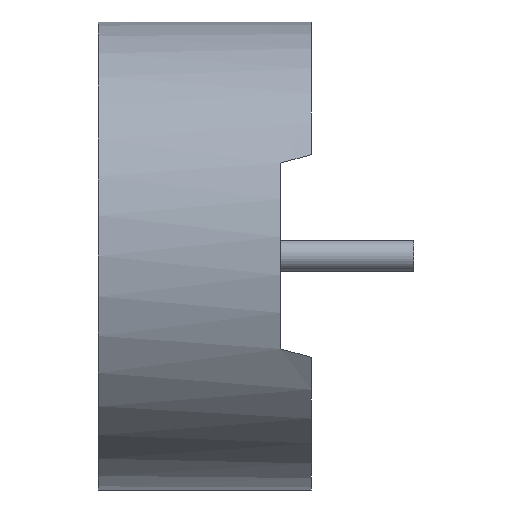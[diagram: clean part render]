
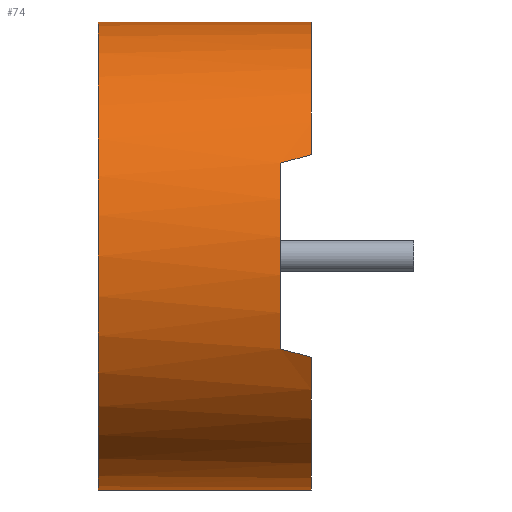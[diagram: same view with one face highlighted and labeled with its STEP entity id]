
A CAD part, left-side view. The second image highlights one B-rep face of the part: STEP entity #74.
In plain terms, the highlighted cylindrical face has radius 9.588 mm (diameter 19.177 mm), a partial arc.
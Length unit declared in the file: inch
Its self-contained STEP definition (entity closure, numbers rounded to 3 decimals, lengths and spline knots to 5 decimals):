
#9 = CARTESIAN_POINT ( 'NONE',  ( 0., 0.344, 0.3775 ) ) ;
#16 = EDGE_CURVE ( 'NONE', #597, #945, #1271, .T. ) ;
#45 = CARTESIAN_POINT ( 'NONE',  ( 0., 0.344, 0.3775 ) ) ;
#50 = CARTESIAN_POINT ( 'NONE',  ( 0., 0., -0.3775 ) ) ;
#56 = CARTESIAN_POINT ( 'NONE',  ( 0., 0.344, -0.3775 ) ) ;
#58 = CARTESIAN_POINT ( 'NONE',  ( 0., 0., 0.3775 ) ) ;
#63 = EDGE_CURVE ( 'NONE', #597, #335, #927, .T. ) ;
#74 = ADVANCED_FACE ( 'NONE', ( #84 ), #925, .T. ) ;
#75 = VECTOR ( 'NONE', #479, 39.37008 ) ;
#84 = FACE_OUTER_BOUND ( 'NONE', #321, .T. ) ;
#111 = AXIS2_PLACEMENT_3D ( 'NONE', #1046, #709, #708 ) ;
#114 = EDGE_CURVE ( 'NONE', #335, #806, #560, .T. ) ;
#144 = ORIENTED_EDGE ( 'NONE', *, *, #399, .T. ) ;
#201 = EDGE_CURVE ( 'NONE', #642, #644, #875, .T. ) ;
#231 = CARTESIAN_POINT ( 'NONE',  ( -0.34642, 0.05, 0.15 ) ) ;
#302 = ORIENTED_EDGE ( 'NONE', *, *, #303, .T. ) ;
#303 = EDGE_CURVE ( 'NONE', #945, #642, #1119, .T. ) ;
#321 = EDGE_LOOP ( 'NONE', ( #630, #638, #570, #302, #805, #769, #1095, #144 ) ) ;
#327 = AXIS2_PLACEMENT_3D ( 'NONE', #1153, #1147, #679 ) ;
#335 = VERTEX_POINT ( 'NONE', #9 ) ;
#353 = CARTESIAN_POINT ( 'NONE',  ( -0.34642, 0.05, -0.15 ) ) ;
#357 = CARTESIAN_POINT ( 'NONE',  ( -0.3403, 0., -0.1634 ) ) ;
#364 = CARTESIAN_POINT ( 'NONE',  ( -0.34642, 0.05, -0.15 ) ) ;
#394 = CARTESIAN_POINT ( 'NONE',  ( -0.34243, 0.01652, -0.15897 ) ) ;
#395 = CARTESIAN_POINT ( 'NONE',  ( -0.34447, 0.03319, -0.15451 ) ) ;
#399 = EDGE_CURVE ( 'NONE', #825, #806, #1099, .T. ) ;
#413 = VECTOR ( 'NONE', #1282, 39.37008 ) ;
#423 = CARTESIAN_POINT ( 'NONE',  ( -0.3403, 0., -0.1634 ) ) ;
#470 = EDGE_CURVE ( 'NONE', #940, #825, #726, .T. ) ;
#479 = DIRECTION ( 'NONE',  ( 0., -1., 0. ) ) ;
#491 = AXIS2_PLACEMENT_3D ( 'NONE', #1226, #1219, #1217 ) ;
#498 = CARTESIAN_POINT ( 'NONE',  ( -0.3403, 0., 0.1634 ) ) ;
#545 = CARTESIAN_POINT ( 'NONE',  ( -0.34447, 0.03319, 0.15451 ) ) ;
#556 = DIRECTION ( 'NONE',  ( 0., 1., 0. ) ) ;
#560 = LINE ( 'NONE', #45, #413 ) ;
#570 = ORIENTED_EDGE ( 'NONE', *, *, #16, .T. ) ;
#597 = VERTEX_POINT ( 'NONE', #867 ) ;
#624 = DIRECTION ( 'NONE',  ( 0., 0., 1. ) ) ;
#630 = ORIENTED_EDGE ( 'NONE', *, *, #114, .F. ) ;
#638 = ORIENTED_EDGE ( 'NONE', *, *, #63, .F. ) ;
#642 = VERTEX_POINT ( 'NONE', #357 ) ;
#644 = VERTEX_POINT ( 'NONE', #353 ) ;
#679 = DIRECTION ( 'NONE',  ( 0., 0., -1. ) ) ;
#708 = DIRECTION ( 'NONE',  ( 0., 0., 1. ) ) ;
#709 = DIRECTION ( 'NONE',  ( 0., 1., 0. ) ) ;
#719 = CARTESIAN_POINT ( 'NONE',  ( 0., 0., 0. ) ) ;
#726 =( BOUNDED_CURVE ( )  B_SPLINE_CURVE ( 3, ( #977, #545, #1093, #1223 ),
 .UNSPECIFIED., .F., .T. ) 
 B_SPLINE_CURVE_WITH_KNOTS ( ( 4, 4 ),
 ( 5.12102, 5.16004 ),
 .UNSPECIFIED. ) 
 CURVE ( )  GEOMETRIC_REPRESENTATION_ITEM ( )  RATIONAL_B_SPLINE_CURVE ( ( 1., 1., 1., 1. ) ) 
 REPRESENTATION_ITEM ( '' )  );
#769 = ORIENTED_EDGE ( 'NONE', *, *, #1216, .T. ) ;
#805 = ORIENTED_EDGE ( 'NONE', *, *, #201, .T. ) ;
#806 = VERTEX_POINT ( 'NONE', #58 ) ;
#825 = VERTEX_POINT ( 'NONE', #498 ) ;
#867 = CARTESIAN_POINT ( 'NONE',  ( 0., 0.344, -0.3775 ) ) ;
#875 =( BOUNDED_CURVE ( )  B_SPLINE_CURVE ( 3, ( #423, #394, #395, #364 ),
 .UNSPECIFIED., .F., .T. ) 
 B_SPLINE_CURVE_WITH_KNOTS ( ( 4, 4 ),
 ( 1.12315, 1.16217 ),
 .UNSPECIFIED. ) 
 CURVE ( )  GEOMETRIC_REPRESENTATION_ITEM ( )  RATIONAL_B_SPLINE_CURVE ( ( 1., 1., 1., 1. ) ) 
 REPRESENTATION_ITEM ( '' )  );
#877 = DIRECTION ( 'NONE',  ( 0., 1., 0. ) ) ;
#881 = CARTESIAN_POINT ( 'NONE',  ( 0., 0.05, 0. ) ) ;
#925 = CYLINDRICAL_SURFACE ( 'NONE', #327, 0.3775 ) ;
#927 = CIRCLE ( 'NONE', #111, 0.3775 ) ;
#940 = VERTEX_POINT ( 'NONE', #231 ) ;
#945 = VERTEX_POINT ( 'NONE', #50 ) ;
#977 = CARTESIAN_POINT ( 'NONE',  ( -0.34642, 0.05, 0.15 ) ) ;
#1046 = CARTESIAN_POINT ( 'NONE',  ( 0., 0.344, 0. ) ) ;
#1093 = CARTESIAN_POINT ( 'NONE',  ( -0.34243, 0.01652, 0.15897 ) ) ;
#1095 = ORIENTED_EDGE ( 'NONE', *, *, #470, .T. ) ;
#1099 = CIRCLE ( 'NONE', #1262, 0.3775 ) ;
#1119 = CIRCLE ( 'NONE', #491, 0.3775 ) ;
#1147 = DIRECTION ( 'NONE',  ( 0., -1., 0. ) ) ;
#1150 = CIRCLE ( 'NONE', #1253, 0.3775 ) ;
#1153 = CARTESIAN_POINT ( 'NONE',  ( 0., 0.344, 0. ) ) ;
#1190 = DIRECTION ( 'NONE',  ( 0., 0., 1. ) ) ;
#1216 = EDGE_CURVE ( 'NONE', #644, #940, #1150, .T. ) ;
#1217 = DIRECTION ( 'NONE',  ( 0., 0., 1. ) ) ;
#1219 = DIRECTION ( 'NONE',  ( 0., 1., 0. ) ) ;
#1223 = CARTESIAN_POINT ( 'NONE',  ( -0.3403, 0., 0.1634 ) ) ;
#1226 = CARTESIAN_POINT ( 'NONE',  ( 0., 0., 0. ) ) ;
#1253 = AXIS2_PLACEMENT_3D ( 'NONE', #881, #877, #1190 ) ;
#1262 = AXIS2_PLACEMENT_3D ( 'NONE', #719, #556, #624 ) ;
#1271 = LINE ( 'NONE', #56, #75 ) ;
#1282 = DIRECTION ( 'NONE',  ( 0., -1., 0. ) ) ;
